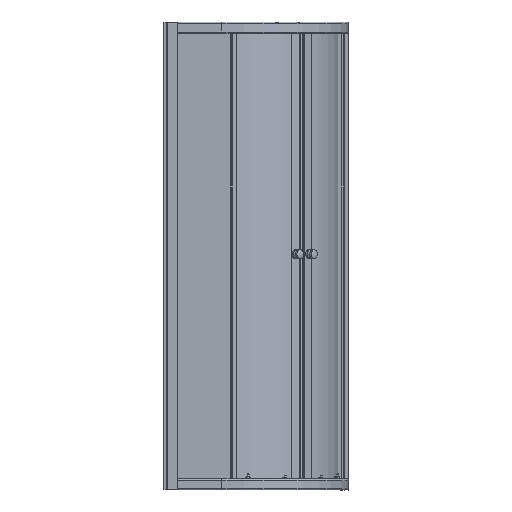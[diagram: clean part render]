
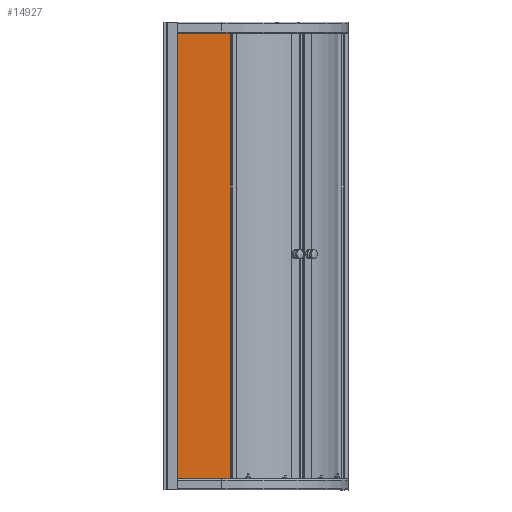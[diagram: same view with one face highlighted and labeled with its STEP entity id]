
A CAD part, front view. The second image highlights one B-rep face of the part: STEP entity #14927.
In plain terms, the highlighted planar face has unit normal (0, -1, 0).
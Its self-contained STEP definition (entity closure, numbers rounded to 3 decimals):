
#56=(
BOUNDED_CURVE()
B_SPLINE_CURVE(2,(#25687,#25688,#25689),.UNSPECIFIED.,.F.,.F.)
B_SPLINE_CURVE_WITH_KNOTS((3,3),(0.,2.628),.UNSPECIFIED.)
CURVE()
GEOMETRIC_REPRESENTATION_ITEM()
RATIONAL_B_SPLINE_CURVE((1.,1.001,1.002))
REPRESENTATION_ITEM($)
);
#58=(
BOUNDED_CURVE()
B_SPLINE_CURVE(2,(#26199,#26200,#26201),.UNSPECIFIED.,.F.,.F.)
B_SPLINE_CURVE_WITH_KNOTS((3,3),(7.292,9.92),
 .UNSPECIFIED.)
CURVE()
GEOMETRIC_REPRESENTATION_ITEM()
RATIONAL_B_SPLINE_CURVE((1.002,1.001,1.))
REPRESENTATION_ITEM($)
);
#290=B_SPLINE_CURVE_WITH_KNOTS($,3,(#26192,#26193,#26194,#26195,#26196,
#26197),.UNSPECIFIED.,.F.,.F.,(4,2,4),(3.167,3.871,
4.701),.UNSPECIFIED.);
#291=B_SPLINE_CURVE_WITH_KNOTS($,3,(#26206,#26207,#26208,#26209,#26210,
#26211),.UNSPECIFIED.,.F.,.F.,(4,2,4),(0.,0.83,1.533),
 .UNSPECIFIED.);
#914=LINE($,#26161,#2056);
#925=LINE($,#26184,#2067);
#926=LINE($,#26186,#2068);
#927=LINE($,#26188,#2069);
#928=LINE($,#26190,#2070);
#929=LINE($,#26203,#2071);
#930=LINE($,#26204,#2072);
#931=LINE($,#26213,#2073);
#932=LINE($,#26215,#2074);
#933=LINE($,#26216,#2075);
#934=LINE($,#26219,#2076);
#935=LINE($,#26221,#2077);
#936=LINE($,#26223,#2078);
#937=LINE($,#26224,#2079);
#2056=VECTOR($,#19191,4.257);
#2067=VECTOR($,#19206,1915.);
#2068=VECTOR($,#19207,0.041);
#2069=VECTOR($,#19208,2.739);
#2070=VECTOR($,#19209,190.);
#2071=VECTOR($,#19210,4.257);
#2072=VECTOR($,#19211,1900.);
#2073=VECTOR($,#19212,190.);
#2074=VECTOR($,#19213,2.739);
#2075=VECTOR($,#19214,0.041);
#2076=VECTOR($,#19215,2.257);
#2077=VECTOR($,#19216,1900.);
#2078=VECTOR($,#19217,2.257);
#2079=VECTOR($,#19218,1900.);
#2766=FACE_BOUND($,#4428,.T.);
#3579=FACE_OUTER_BOUND($,#4427,.T.);
#4427=EDGE_LOOP($,(#11237,#11238,#11239,#11240,#11241,#11242,#11243,#11244,
#11245,#11246,#11247,#11248,#11249,#11250));
#4428=EDGE_LOOP($,(#11251,#11252,#11253,#11254));
#6228=VERTEX_POINT($,#25684);
#6229=VERTEX_POINT($,#25686);
#6375=VERTEX_POINT($,#26146);
#6388=VERTEX_POINT($,#26182);
#6389=VERTEX_POINT($,#26183);
#6390=VERTEX_POINT($,#26185);
#6391=VERTEX_POINT($,#26187);
#6392=VERTEX_POINT($,#26189);
#6393=VERTEX_POINT($,#26191);
#6394=VERTEX_POINT($,#26198);
#6395=VERTEX_POINT($,#26202);
#6396=VERTEX_POINT($,#26205);
#6397=VERTEX_POINT($,#26212);
#6398=VERTEX_POINT($,#26214);
#6399=VERTEX_POINT($,#26217);
#6400=VERTEX_POINT($,#26218);
#6401=VERTEX_POINT($,#26220);
#6402=VERTEX_POINT($,#26222);
#7964=EDGE_CURVE($,#6228,#6229,#56,.T.);
#8181=EDGE_CURVE($,#6375,#6229,#914,.T.);
#8192=EDGE_CURVE($,#6388,#6389,#925,.T.);
#8193=EDGE_CURVE($,#6388,#6390,#926,.T.);
#8194=EDGE_CURVE($,#6391,#6390,#927,.T.);
#8195=EDGE_CURVE($,#6392,#6391,#928,.T.);
#8196=EDGE_CURVE($,#6393,#6392,#290,.T.);
#8197=EDGE_CURVE($,#6394,#6393,#58,.T.);
#8198=EDGE_CURVE($,#6394,#6395,#929,.T.);
#8199=EDGE_CURVE($,#6375,#6395,#930,.T.);
#8200=EDGE_CURVE($,#6396,#6228,#291,.T.);
#8201=EDGE_CURVE($,#6397,#6396,#931,.T.);
#8202=EDGE_CURVE($,#6397,#6398,#932,.T.);
#8203=EDGE_CURVE($,#6389,#6398,#933,.T.);
#8204=EDGE_CURVE($,#6399,#6400,#934,.T.);
#8205=EDGE_CURVE($,#6401,#6399,#935,.T.);
#8206=EDGE_CURVE($,#6402,#6401,#936,.T.);
#8207=EDGE_CURVE($,#6400,#6402,#937,.T.);
#11237=ORIENTED_EDGE($,*,*,#8192,.F.);
#11238=ORIENTED_EDGE($,*,*,#8193,.T.);
#11239=ORIENTED_EDGE($,*,*,#8194,.F.);
#11240=ORIENTED_EDGE($,*,*,#8195,.F.);
#11241=ORIENTED_EDGE($,*,*,#8196,.F.);
#11242=ORIENTED_EDGE($,*,*,#8197,.F.);
#11243=ORIENTED_EDGE($,*,*,#8198,.T.);
#11244=ORIENTED_EDGE($,*,*,#8199,.F.);
#11245=ORIENTED_EDGE($,*,*,#8181,.T.);
#11246=ORIENTED_EDGE($,*,*,#7964,.F.);
#11247=ORIENTED_EDGE($,*,*,#8200,.F.);
#11248=ORIENTED_EDGE($,*,*,#8201,.F.);
#11249=ORIENTED_EDGE($,*,*,#8202,.T.);
#11250=ORIENTED_EDGE($,*,*,#8203,.F.);
#11251=ORIENTED_EDGE($,*,*,#8204,.F.);
#11252=ORIENTED_EDGE($,*,*,#8205,.F.);
#11253=ORIENTED_EDGE($,*,*,#8206,.F.);
#11254=ORIENTED_EDGE($,*,*,#8207,.F.);
#13501=PLANE($,#16174);
#14927=ADVANCED_FACE($,(#3579,#2766),#13501,.T.);
#16174=AXIS2_PLACEMENT_3D($,#26181,#19204,#19205);
#19191=DIRECTION($,(0.,0.,1.));
#19204=DIRECTION('center_axis',(0.,-1.,0.));
#19205=DIRECTION('ref_axis',(1.,0.,0.));
#19206=DIRECTION($,(0.,0.,1.));
#19207=DIRECTION($,(1.,0.,0.));
#19208=DIRECTION($,(0.,0.,-1.));
#19209=DIRECTION($,(-1.,0.,0.));
#19210=DIRECTION($,(0.,0.,1.));
#19211=DIRECTION($,(0.,0.,-1.));
#19212=DIRECTION($,(1.,0.,0.));
#19213=DIRECTION($,(0.,0.,1.));
#19214=DIRECTION($,(1.,0.,0.));
#19215=DIRECTION($,(1.,0.,0.));
#19216=DIRECTION($,(0.,0.,-1.));
#19217=DIRECTION($,(-1.,0.,0.));
#19218=DIRECTION($,(0.,0.,1.));
#25684=CARTESIAN_POINT('',(237.086,-165.072,1964.385));
#25686=CARTESIAN_POINT('',(263.17,-165.072,1964.178));
#25687=CARTESIAN_POINT('Ctrl Pts',(237.086,-165.072,1964.385));
#25688=CARTESIAN_POINT('Ctrl Pts',(250.109,-165.072,1964.327));
#25689=CARTESIAN_POINT('Ctrl Pts',(263.17,-165.072,1964.178));
#26146=CARTESIAN_POINT('',(263.17,-165.072,1959.921));
#26161=CARTESIAN_POINT($,(263.17,-165.072,52.421));
#26181=CARTESIAN_POINT('Origin',(23.17,-165.072,52.421));
#26182=CARTESIAN_POINT('',(30.628,-165.072,52.421));
#26183=CARTESIAN_POINT('',(30.628,-165.072,1967.421));
#26184=CARTESIAN_POINT($,(30.628,-165.072,39.421));
#26185=CARTESIAN_POINT('',(30.67,-165.072,52.421));
#26186=CARTESIAN_POINT($,(23.17,-165.072,52.421));
#26187=CARTESIAN_POINT('',(30.67,-165.072,55.16));
#26188=CARTESIAN_POINT($,(30.67,-165.072,55.211));
#26189=CARTESIAN_POINT('',(220.67,-165.072,55.16));
#26190=CARTESIAN_POINT($,(220.67,-165.072,55.16));
#26191=CARTESIAN_POINT('',(237.086,-165.072,55.457));
#26192=CARTESIAN_POINT('Ctrl Pts',(237.086,-165.072,55.457));
#26193=CARTESIAN_POINT('Ctrl Pts',(234.675,-165.072,55.447));
#26194=CARTESIAN_POINT('Ctrl Pts',(232.095,-165.072,55.408));
#26195=CARTESIAN_POINT('Ctrl Pts',(226.475,-165.072,55.3));
#26196=CARTESIAN_POINT('Ctrl Pts',(223.434,-165.072,55.227));
#26197=CARTESIAN_POINT('Ctrl Pts',(220.67,-165.072,55.16));
#26198=CARTESIAN_POINT('',(263.17,-165.072,55.664));
#26199=CARTESIAN_POINT('Ctrl Pts',(263.17,-165.072,55.664));
#26200=CARTESIAN_POINT('Ctrl Pts',(250.109,-165.072,55.515));
#26201=CARTESIAN_POINT('Ctrl Pts',(237.086,-165.072,55.457));
#26202=CARTESIAN_POINT('',(263.17,-165.072,59.921));
#26203=CARTESIAN_POINT($,(263.17,-165.072,52.421));
#26204=CARTESIAN_POINT($,(263.17,-165.072,1959.921));
#26205=CARTESIAN_POINT('',(220.67,-165.072,1964.682));
#26206=CARTESIAN_POINT('Ctrl Pts',(220.67,-165.072,1964.682));
#26207=CARTESIAN_POINT('Ctrl Pts',(223.434,-165.072,1964.616));
#26208=CARTESIAN_POINT('Ctrl Pts',(226.475,-165.072,1964.542));
#26209=CARTESIAN_POINT('Ctrl Pts',(232.095,-165.072,1964.434));
#26210=CARTESIAN_POINT('Ctrl Pts',(234.675,-165.072,1964.395));
#26211=CARTESIAN_POINT('Ctrl Pts',(237.086,-165.072,1964.385));
#26212=CARTESIAN_POINT('',(30.67,-165.072,1964.682));
#26213=CARTESIAN_POINT($,(30.67,-165.072,1964.682));
#26214=CARTESIAN_POINT('',(30.67,-165.072,1967.421));
#26215=CARTESIAN_POINT($,(30.67,-165.072,1964.682));
#26216=CARTESIAN_POINT($,(23.17,-165.072,1967.421));
#26217=CARTESIAN_POINT('',(258.47,-165.072,59.921));
#26218=CARTESIAN_POINT('',(260.726,-165.072,59.921));
#26219=CARTESIAN_POINT($,(143.57,-165.072,59.921));
#26220=CARTESIAN_POINT('',(258.47,-165.072,1959.921));
#26221=CARTESIAN_POINT($,(258.47,-165.072,1006.171));
#26222=CARTESIAN_POINT('',(260.726,-165.072,1959.921));
#26223=CARTESIAN_POINT($,(143.57,-165.072,1959.921));
#26224=CARTESIAN_POINT($,(260.726,-165.072,1006.171));
